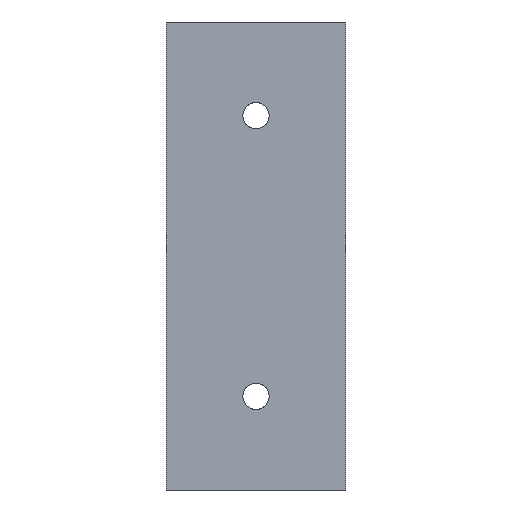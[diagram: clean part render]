
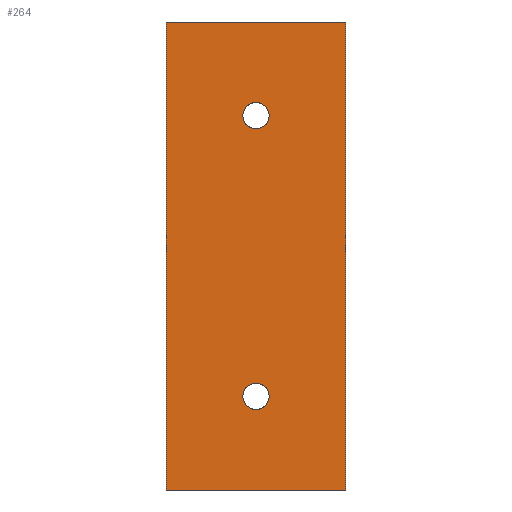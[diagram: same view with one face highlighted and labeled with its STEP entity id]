
A CAD part, front view. The second image highlights one B-rep face of the part: STEP entity #264.
In plain terms, the highlighted face is a extrusion surface.
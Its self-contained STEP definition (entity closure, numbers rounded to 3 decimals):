
#141=CARTESIAN_POINT('Control Point',(-24.,-5.,62.5)) ;
#142=CARTESIAN_POINT('Control Point',(-24.,-5.,-62.5)) ;
#146=CARTESIAN_POINT('Line Origine',(0.,-5.,-62.5)) ;
#150=CARTESIAN_POINT('Vertex',(-24.,-5.,-62.5)) ;
#152=CARTESIAN_POINT('Vertex',(24.,-5.,-62.5)) ;
#155=CARTESIAN_POINT('Line Origine',(24.,-5.,0.)) ;
#159=CARTESIAN_POINT('Vertex',(24.,-5.,62.5)) ;
#162=CARTESIAN_POINT('Line Origine',(0.,-5.,62.5)) ;
#166=CARTESIAN_POINT('Vertex',(-24.,-5.,62.5)) ;
#169=CARTESIAN_POINT('Line Origine',(-24.,-5.,0.)) ;
#181=CARTESIAN_POINT('Control Point',(3.5,-5.,37.5)) ;
#182=CARTESIAN_POINT('Control Point',(3.5,-5.,36.767)) ;
#183=CARTESIAN_POINT('Control Point',(3.308,-5.,36.034)) ;
#184=CARTESIAN_POINT('Control Point',(2.923,-5.,35.368)) ;
#185=CARTESIAN_POINT('Control Point',(2.115,-5.,34.569)) ;
#186=CARTESIAN_POINT('Control Point',(1.09,-5.,34.144)) ;
#187=CARTESIAN_POINT('Control Point',(0.732,-5.,34.048)) ;
#188=CARTESIAN_POINT('Control Point',(-0.001,-5.,33.952)) ;
#189=CARTESIAN_POINT('Control Point',(-0.734,-5.,34.048)) ;
#190=CARTESIAN_POINT('Control Point',(-1.093,-5.,34.144)) ;
#191=CARTESIAN_POINT('Control Point',(-2.116,-5.,34.57)) ;
#192=CARTESIAN_POINT('Control Point',(-2.924,-5.,35.369)) ;
#193=CARTESIAN_POINT('Control Point',(-3.308,-5.,36.035)) ;
#194=CARTESIAN_POINT('Control Point',(-3.5,-5.,36.767)) ;
#195=CARTESIAN_POINT('Control Point',(-3.5,-5.,37.5)) ;
#196=CARTESIAN_POINT('Vertex',(3.5,-5.,37.5)) ;
#198=CARTESIAN_POINT('Vertex',(-3.5,-5.,37.5)) ;
#202=CARTESIAN_POINT('Control Point',(-3.5,-5.,37.5)) ;
#203=CARTESIAN_POINT('Control Point',(-3.5,-5.,37.867)) ;
#204=CARTESIAN_POINT('Control Point',(-3.452,-5.,38.233)) ;
#205=CARTESIAN_POINT('Control Point',(-3.356,-5.,38.591)) ;
#206=CARTESIAN_POINT('Control Point',(-2.931,-5.,39.616)) ;
#207=CARTESIAN_POINT('Control Point',(-2.131,-5.,40.424)) ;
#208=CARTESIAN_POINT('Control Point',(-1.465,-5.,40.809)) ;
#209=CARTESIAN_POINT('Control Point',(-0.365,-5.,41.096)) ;
#210=CARTESIAN_POINT('Control Point',(0.734,-5.,40.952)) ;
#211=CARTESIAN_POINT('Control Point',(1.093,-5.,40.856)) ;
#212=CARTESIAN_POINT('Control Point',(2.116,-5.,40.43)) ;
#213=CARTESIAN_POINT('Control Point',(2.924,-5.,39.631)) ;
#214=CARTESIAN_POINT('Control Point',(3.308,-5.,38.965)) ;
#215=CARTESIAN_POINT('Control Point',(3.5,-5.,38.233)) ;
#216=CARTESIAN_POINT('Control Point',(3.5,-5.,37.5)) ;
#223=CARTESIAN_POINT('Control Point',(3.5,-5.,-37.5)) ;
#224=CARTESIAN_POINT('Control Point',(3.5,-5.,-38.233)) ;
#225=CARTESIAN_POINT('Control Point',(3.308,-5.,-38.966)) ;
#226=CARTESIAN_POINT('Control Point',(2.923,-5.,-39.632)) ;
#227=CARTESIAN_POINT('Control Point',(2.115,-5.,-40.431)) ;
#228=CARTESIAN_POINT('Control Point',(1.09,-5.,-40.856)) ;
#229=CARTESIAN_POINT('Control Point',(0.732,-5.,-40.952)) ;
#230=CARTESIAN_POINT('Control Point',(-0.001,-5.,-41.048)) ;
#231=CARTESIAN_POINT('Control Point',(-0.734,-5.,-40.952)) ;
#232=CARTESIAN_POINT('Control Point',(-1.093,-5.,-40.856)) ;
#233=CARTESIAN_POINT('Control Point',(-2.116,-5.,-40.43)) ;
#234=CARTESIAN_POINT('Control Point',(-2.924,-5.,-39.631)) ;
#235=CARTESIAN_POINT('Control Point',(-3.308,-5.,-38.965)) ;
#236=CARTESIAN_POINT('Control Point',(-3.5,-5.,-38.233)) ;
#237=CARTESIAN_POINT('Control Point',(-3.5,-5.,-37.5)) ;
#238=CARTESIAN_POINT('Vertex',(3.5,-5.,-37.5)) ;
#240=CARTESIAN_POINT('Vertex',(-3.5,-5.,-37.5)) ;
#244=CARTESIAN_POINT('Control Point',(-3.5,-5.,-37.5)) ;
#245=CARTESIAN_POINT('Control Point',(-3.5,-5.,-37.133)) ;
#246=CARTESIAN_POINT('Control Point',(-3.452,-5.,-36.767)) ;
#247=CARTESIAN_POINT('Control Point',(-3.356,-5.,-36.409)) ;
#248=CARTESIAN_POINT('Control Point',(-2.931,-5.,-35.384)) ;
#249=CARTESIAN_POINT('Control Point',(-2.131,-5.,-34.576)) ;
#250=CARTESIAN_POINT('Control Point',(-1.465,-5.,-34.191)) ;
#251=CARTESIAN_POINT('Control Point',(-0.365,-5.,-33.904)) ;
#252=CARTESIAN_POINT('Control Point',(0.734,-5.,-34.048)) ;
#253=CARTESIAN_POINT('Control Point',(1.093,-5.,-34.144)) ;
#254=CARTESIAN_POINT('Control Point',(2.116,-5.,-34.57)) ;
#255=CARTESIAN_POINT('Control Point',(2.924,-5.,-35.369)) ;
#256=CARTESIAN_POINT('Control Point',(3.308,-5.,-36.035)) ;
#257=CARTESIAN_POINT('Control Point',(3.5,-5.,-36.767)) ;
#258=CARTESIAN_POINT('Control Point',(3.5,-5.,-37.5)) ;
#143=DIRECTION('Vector Direction',(1.,0.,0.)) ;
#147=DIRECTION('Vector Direction',(1.,0.,0.)) ;
#156=DIRECTION('Vector Direction',(0.,0.,-1.)) ;
#163=DIRECTION('Vector Direction',(1.,0.,0.)) ;
#170=DIRECTION('Vector Direction',(0.,0.,-1.)) ;
#175=ORIENTED_EDGE('',*,*,#154,.T.) ;
#176=ORIENTED_EDGE('',*,*,#161,.T.) ;
#177=ORIENTED_EDGE('',*,*,#168,.T.) ;
#178=ORIENTED_EDGE('',*,*,#173,.T.) ;
#219=ORIENTED_EDGE('',*,*,#200,.T.) ;
#220=ORIENTED_EDGE('',*,*,#217,.T.) ;
#261=ORIENTED_EDGE('',*,*,#242,.T.) ;
#262=ORIENTED_EDGE('',*,*,#259,.T.) ;
#221=FACE_BOUND('',#218,.T.) ;
#263=FACE_BOUND('',#260,.T.) ;
#144=VECTOR('Extrusion Surface Vector',#143,1.) ;
#148=VECTOR('Line Direction',#147,1.) ;
#157=VECTOR('Line Direction',#156,1.) ;
#164=VECTOR('Line Direction',#163,1.) ;
#171=VECTOR('Line Direction',#170,1.) ;
#264=ADVANCED_FACE('Superficie.3',(#179,#221,#263),#145,.T.) ;
#140=B_SPLINE_CURVE_WITH_KNOTS('',1,(#141,#142),.UNSPECIFIED.,.F.,.U.,(2,2),(-62.5,62.5),.UNSPECIFIED.) ;
#180=B_SPLINE_CURVE_WITH_KNOTS('',5,(#181,#182,#183,#184,#185,#186,#187,#188,#189,#190,#191,#192,#193,#194,#195),.UNSPECIFIED.,.F.,.U.,(6,3,3,3,6),(0.,5.185,7.777,10.369,15.55),.UNSPECIFIED.) ;
#201=B_SPLINE_CURVE_WITH_KNOTS('',5,(#202,#203,#204,#205,#206,#207,#208,#209,#210,#211,#212,#213,#214,#215,#216),.UNSPECIFIED.,.F.,.U.,(6,3,3,3,6),(0.,2.592,7.777,10.369,15.55),.UNSPECIFIED.) ;
#222=B_SPLINE_CURVE_WITH_KNOTS('',5,(#223,#224,#225,#226,#227,#228,#229,#230,#231,#232,#233,#234,#235,#236,#237),.UNSPECIFIED.,.F.,.U.,(6,3,3,3,6),(0.,5.185,7.777,10.369,15.55),.UNSPECIFIED.) ;
#243=B_SPLINE_CURVE_WITH_KNOTS('',5,(#244,#245,#246,#247,#248,#249,#250,#251,#252,#253,#254,#255,#256,#257,#258),.UNSPECIFIED.,.F.,.U.,(6,3,3,3,6),(0.,2.592,7.777,10.369,15.55),.UNSPECIFIED.) ;
#154=EDGE_CURVE('',#151,#153,#149,.T.) ;
#161=EDGE_CURVE('',#153,#160,#158,.F.) ;
#168=EDGE_CURVE('',#160,#167,#165,.F.) ;
#173=EDGE_CURVE('',#167,#151,#172,.T.) ;
#200=EDGE_CURVE('',#197,#199,#180,.T.) ;
#217=EDGE_CURVE('',#199,#197,#201,.T.) ;
#242=EDGE_CURVE('',#239,#241,#222,.T.) ;
#259=EDGE_CURVE('',#241,#239,#243,.T.) ;
#174=EDGE_LOOP('',(#175,#176,#177,#178)) ;
#218=EDGE_LOOP('',(#219,#220)) ;
#260=EDGE_LOOP('',(#261,#262)) ;
#179=FACE_OUTER_BOUND('',#174,.T.) ;
#149=LINE('Line',#146,#148) ;
#158=LINE('Line',#155,#157) ;
#165=LINE('Line',#162,#164) ;
#172=LINE('Line',#169,#171) ;
#145=SURFACE_OF_LINEAR_EXTRUSION('generated tabulated cylinder',#140,#144) ;
#151=VERTEX_POINT('',#150) ;
#153=VERTEX_POINT('',#152) ;
#160=VERTEX_POINT('',#159) ;
#167=VERTEX_POINT('',#166) ;
#197=VERTEX_POINT('',#196) ;
#199=VERTEX_POINT('',#198) ;
#239=VERTEX_POINT('',#238) ;
#241=VERTEX_POINT('',#240) ;
